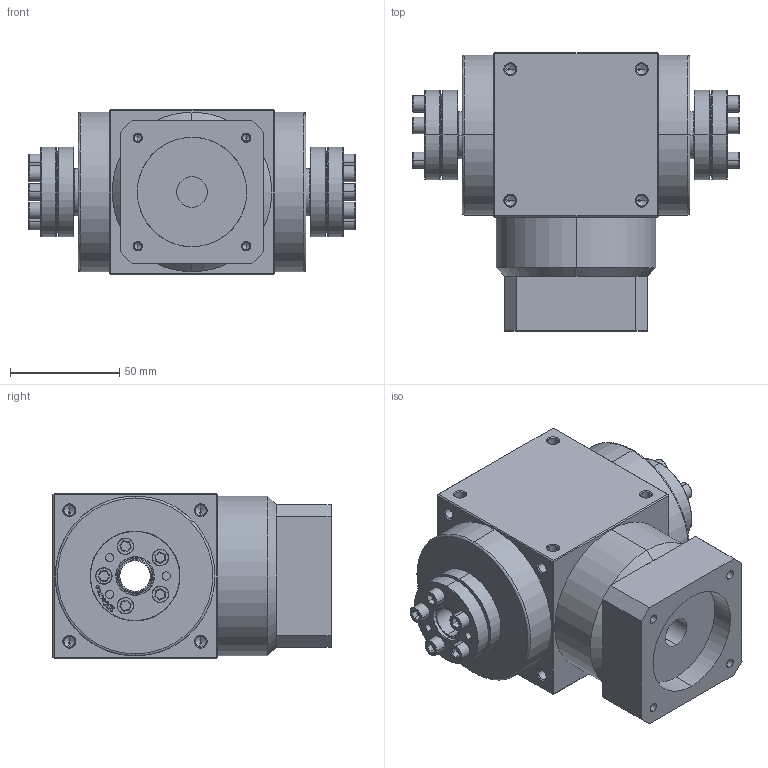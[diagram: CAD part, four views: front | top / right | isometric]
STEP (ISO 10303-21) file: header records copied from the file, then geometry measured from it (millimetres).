
FILE_DESCRIPTION (( 'STEP AP214' ), '1' );
FILE_NAME ('AT075-FC-001 14-50-70-M5.STEP', '2023-07-12T01:53:30', ( '微软用户' ), ( '微软中国' ), 'SwSTEP 2.0', 'SolidWorks 2018', '' );
FILE_SCHEMA (( 'AUTOMOTIVE_DESIGN' ));
Length unit declared in the file: millimetre
Products named in the file (3): AT075-FC-001 14-50-70-M5; 83_16x41; AT075-FC-001--14-50-70-M4
Assembly tree (3 placements, depth 2):
  AT075-FC-001 14-50-70-M5
    AT075-FC-001--14-50-70-M4
    83_16x41  x2
Bounding box: 149 x 127 x 75 mm (x, y, z)
Volume: 748629.1 mm3; surface area: 90774.9 mm2
Topology: 19 solids, 19 shells, 959 faces, 2318 edges, 1400 vertices
Faces by surface type: cylinder 414, plane 247, cone 214, bspline 84
Entity records: 29159 total; most frequent: CARTESIAN_POINT 8498, ORIENTED_EDGE 2912, DIRECTION 2884, EDGE_CURVE 1456, AXIS2_PLACEMENT_3D 1104, VERTEX_POINT 894, EDGE_LOOP 706, LINE 676
